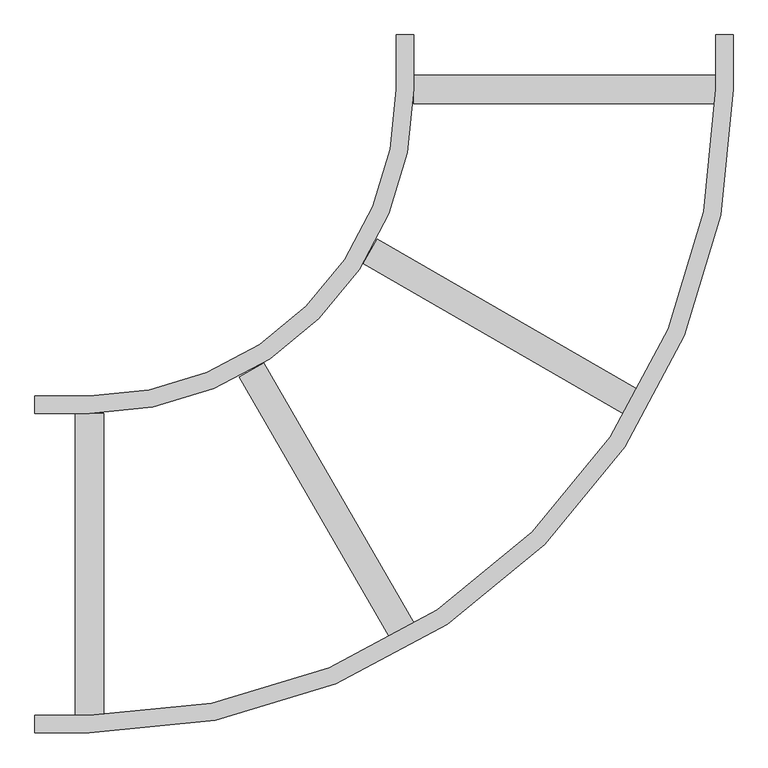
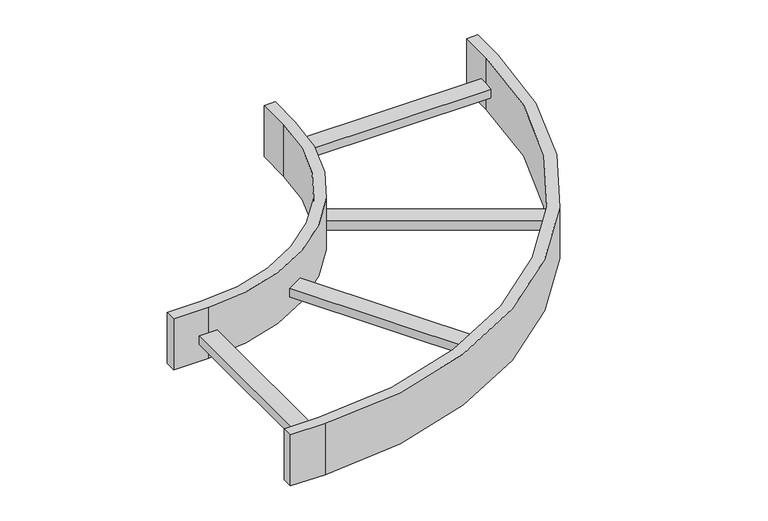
"""IFC4 building model written with IfcOpenShell, lengths in millimetres: cable carrier fitting geometry, Legrand_CableLadder_Swifts_Sapphire_FlatBend-13 : Hot Dip Galvanised (after manufacture)."""

import ifcopenshell
import ifcopenshell.guid

model = None  # the IFC model being written
_history = None  # IfcOwnerHistory: only IFC2X3 demands one
_inside = {}  # id of a spatial element -> (the spatial element, [elements in it])
_under = {}  # id of a project, library or spatial element -> (it, [spatial elements below it])
_declared = {}  # id of a project -> (the project, [libraries it declares])
_typed = {}  # id of a type object -> (the type object, [elements of that type])
_made_of = {}  # id of a material, layer set ... -> (it, [elements and type objects made of it])


def new_model(schema):
    """Start an empty IFC model of exactly this schema.

    Asked for "IFC4X3", IfcOpenShell would pick the latest addendum, in which some entities
    have other attributes; the version numbers below select the first issue.
    IFC2X3 requires an IfcOwnerHistory on every rooted entity: one is made here for all.
    """
    global model, _history
    if schema == "IFC4X3":
        model = ifcopenshell.file(schema_version=(4, 3, 0, 0))
    else:
        model = ifcopenshell.file(schema=schema)
    _inside.clear()
    _under.clear()
    _declared.clear()
    _typed.clear()
    _made_of.clear()
    _history = None
    if model.schema == "IFC2X3":
        org = make("IfcOrganization", Name="unknown")
        user = make(
            "IfcPersonAndOrganization",
            ThePerson=make("IfcPerson", FamilyName="unknown"),
            TheOrganization=org,
        )
        app = make(
            "IfcApplication",
            ApplicationDeveloper=org,
            Version="unknown",
            ApplicationFullName="unknown",
            ApplicationIdentifier="unknown",
        )
        _history = make(
            "IfcOwnerHistory",
            OwningUser=user,
            OwningApplication=app,
            ChangeAction="ADDED",
            CreationDate=0,
        )
    return model


def make(cls, **values):
    """One entity of the class cls with the attributes given. An attribute that is None is left unset."""
    return model.create_entity(
        cls, **{name: value for name, value in values.items() if value is not None}
    )


def rooted(cls, **values):
    """An entity with a GlobalId (a new one), such as an element, a storey or a relation."""
    return make(cls, GlobalId=ifcopenshell.guid.new(), OwnerHistory=_history, **values)


def si_unit(unit_type, name, prefix=None):
    """IfcSIUnit, for example si_unit("LENGTHUNIT", "METRE", prefix="MILLI")."""
    return make("IfcSIUnit", UnitType=unit_type, Prefix=prefix, Name=name)


def assignment(units):
    """IfcUnitAssignment: the units of a project."""
    return None if units is None else make("IfcUnitAssignment", Units=units)


def point(xyz):
    """IfcCartesianPoint."""
    return None if xyz is None else make("IfcCartesianPoint", Coordinates=xyz)


def direction(xyz):
    """IfcDirection."""
    return None if xyz is None else make("IfcDirection", DirectionRatios=xyz)


def frame(location, z_axis=None, x_axis=None):
    """IfcAxis2Placement3D, a coordinate frame: its origin and axes. An axis left out is left unset."""
    return make(
        "IfcAxis2Placement3D",
        Location=point(location),
        Axis=direction(z_axis),
        RefDirection=direction(x_axis),
    )


def frame_2d(location, x_axis=None):
    """IfcAxis2Placement2D, a coordinate frame in the plane: its origin and x axis."""
    return make(
        "IfcAxis2Placement2D", Location=point(location), RefDirection=direction(x_axis)
    )


def origin():
    """The frame at (0, 0, 0) with its axes left unset."""
    return frame((0.0, 0.0, 0.0))


def place(relative_to, where):
    """IfcLocalPlacement: puts the frame where relative to a parent placement (None: the world)."""
    return make(
        "IfcLocalPlacement", PlacementRelTo=relative_to, RelativePlacement=where
    )


def context(
    kind, dimensions, precision=None, world=None, true_north=None, identifier=None
):
    """IfcGeometricRepresentationContext, for example the 3D "Model" context."""
    return make(
        "IfcGeometricRepresentationContext",
        ContextIdentifier=identifier,
        ContextType=kind,
        CoordinateSpaceDimension=dimensions,
        Precision=precision,
        WorldCoordinateSystem=world,
        TrueNorth=true_north,
    )


def project(units=None, contexts=None):
    """IfcProject with its units and contexts."""
    return rooted(
        "IfcProject",
        Name="project",
        RepresentationContexts=contexts,
        UnitsInContext=assignment(units),
    )


def spatial(cls, under=None, at=None, **own):
    """A site, building, storey or space (cls), placed at a placement, below another one or the project."""
    s = rooted(cls, ObjectPlacement=at, **own)
    if under is not None:
        _under.setdefault(under.id(), (under, []))[1].append(s)
    return s


def polyline(points):
    """IfcPolyline through the points."""
    return make("IfcPolyline", Points=[point(p) for p in points])


def circle_curve(where, radius):
    """IfcCircle in the frame where."""
    return make("IfcCircle", Position=where, Radius=radius)


def trimmed(basis, trim1, trim2, sense, master):
    """IfcTrimmedCurve: the piece of a basis curve between two trims."""
    return make(
        "IfcTrimmedCurve",
        BasisCurve=basis,
        Trim1=trim1,
        Trim2=trim2,
        SenseAgreement=sense,
        MasterRepresentation=master,
    )


def segment(curve, same_sense, transition):
    """IfcCompositeCurveSegment."""
    return make(
        "IfcCompositeCurveSegment",
        Transition=transition,
        SameSense=same_sense,
        ParentCurve=curve,
    )


def composite_curve(segments, self_intersect=None):
    """IfcCompositeCurve: segments joined end to end."""
    return make("IfcCompositeCurve", Segments=segments, SelfIntersect=self_intersect)


def outline(outer, holes=None, kind="AREA"):
    """IfcArbitraryClosedProfileDef: a profile drawn as a closed curve; with holes, ...WithVoids."""
    if holes is None:
        return make("IfcArbitraryClosedProfileDef", ProfileType=kind, OuterCurve=outer)
    return make(
        "IfcArbitraryProfileDefWithVoids",
        ProfileType=kind,
        OuterCurve=outer,
        InnerCurves=holes,
    )


def extrude(swept, where, along, depth):
    """IfcExtrudedAreaSolid: the profile swept, set in the frame where, extruded along a direction by depth."""
    return make(
        "IfcExtrudedAreaSolid",
        SweptArea=swept,
        Position=where,
        ExtrudedDirection=direction(along),
        Depth=depth,
    )


def shape(context_of_items, identifier, shape_type, items):
    """IfcShapeRepresentation: the items that make up one representation, for example the "Body"."""
    return make(
        "IfcShapeRepresentation",
        ContextOfItems=context_of_items,
        RepresentationIdentifier=identifier,
        RepresentationType=shape_type,
        Items=items,
    )


def source(mapping_origin, context_of_items, identifier, shape_type, items):
    """IfcRepresentationMap: a shape defined once, which mapped items show again and again."""
    return make(
        "IfcRepresentationMap",
        MappingOrigin=mapping_origin,
        MappedRepresentation=shape(context_of_items, identifier, shape_type, items),
    )


def transform(
    local_origin,
    x_axis=None,
    y_axis=None,
    z_axis=None,
    scale=None,
    scale2=None,
    scale3=None,
    uniform=True,
):
    """IfcCartesianTransformationOperator3D, or its non-uniform kind. x_axis, y_axis, z_axis: its Axis1, 2, 3."""
    if uniform:
        return make(
            "IfcCartesianTransformationOperator3D",
            Axis1=direction(x_axis),
            Axis2=direction(y_axis),
            LocalOrigin=point(local_origin),
            Scale=scale,
            Axis3=direction(z_axis),
        )
    return make(
        "IfcCartesianTransformationOperator3DnonUniform",
        Axis1=direction(x_axis),
        Axis2=direction(y_axis),
        LocalOrigin=point(local_origin),
        Scale=scale,
        Axis3=direction(z_axis),
        Scale2=scale2,
        Scale3=scale3,
    )


def mapped(mapping_source, mapping_target):
    """IfcMappedItem: shows the shape of a source again, moved by a transform."""
    return make(
        "IfcMappedItem", MappingSource=mapping_source, MappingTarget=mapping_target
    )


def made_of(thing, what):
    """Note that an element or type object is made of a material, layer set ...; save() writes the relation."""
    if what is not None:
        _made_of.setdefault(what.id(), (what, []))[1].append(thing)
    return thing


def element(
    cls,
    number,
    at=None,
    inside=None,
    cuts=None,
    type_object=None,
    material=None,
    context=None,
    identifier="Body",
    shape_type=None,
    held_by="IfcProductDefinitionShape",
    body=None,
    shapes=None,
    **own,
):
    """One element of the class cls, such as IfcWall. Its Tag is "e" and its number.

    at: its placement. inside: the storey or other place that contains it. cuts: it is an
    opening in that element (IfcRelVoidsElement). A single representation is given by context,
    identifier, shape_type and body (its items); several are given by shapes. held_by: the class
    of the entity that holds the representations. save() writes the other relations.
    """
    e = rooted(cls, Tag="e%d" % number, ObjectPlacement=at, **own)
    if body is not None:
        shapes = [shape(context, identifier, shape_type, body)]
    if shapes is not None:
        e.Representation = make(held_by, Representations=shapes)
    if inside is not None:
        _inside.setdefault(inside.id(), (inside, []))[1].append(e)
    if cuts is not None:
        rooted(
            "IfcRelVoidsElement", RelatingBuildingElement=cuts, RelatedOpeningElement=e
        )
    if type_object is not None:
        _typed.setdefault(type_object.id(), (type_object, []))[1].append(e)
    return made_of(e, material)


def aggregate(whole, parts):
    """IfcRelAggregates: a whole, such as a stair, and the parts it consists of."""
    return rooted("IfcRelAggregates", RelatingObject=whole, RelatedObjects=parts)


def save(model, path):
    """Write the relations noted so far, then the file.

    IfcRelAggregates (storeys below a building ...), IfcRelContainedInSpatialStructure (elements
    in a storey), IfcRelDefinesByType, IfcRelAssociatesMaterial and IfcRelDeclares: one each for
    every whole, place, type object, material and project.
    """
    for whole, parts in _under.values():
        aggregate(whole, parts)
    for where, things in _inside.values():
        rooted(
            "IfcRelContainedInSpatialStructure",
            RelatedElements=things,
            RelatingStructure=where,
        )
    for kind, things in _typed.values():
        rooted("IfcRelDefinesByType", RelatedObjects=things, RelatingType=kind)
    for what, things in _made_of.values():
        rooted("IfcRelAssociatesMaterial", RelatedObjects=things, RelatingMaterial=what)
    for by, libraries in _declared.values():
        rooted("IfcRelDeclares", RelatingContext=by, RelatedDefinitions=libraries)
    model.write(path)


def cable_carrier_fitting_333dc7c5(model_context):
    return source(origin(), model_context, "Body", "SweptSolid", [
        extrude(outline(polyline([(-255.9365335, -108.9443334), (-477.4365335, 274.7049205), (-441.0634665, 295.7049205), (-219.5634665, -87.9443334), (-255.9365335, -108.9443334)])), frame((0.0, 0.0, -21.0), z_axis=(0.0, 0.0, 1.0), x_axis=(1.0, 0.0, 0.0)), (0.0, 0.0, 1.0), 21.0),
        extrude(outline(polyline([(87.9443334, 219.5634665), (-295.7049205, 441.0634665), (-274.7049205, 477.4365335), (108.9443334, 255.9365335), (87.9443334, 219.5634665)])), frame((0.0, 0.0, -21.0), z_axis=(0.0, 0.0, 1.0), x_axis=(1.0, 0.0, 0.0)), (0.0, 0.0, 1.0), 21.0),
        extrude(outline(polyline([(-718.0, -221.5), (-718.0, 221.5), (-676.0, 221.5), (-676.0, -221.5), (-718.0, -221.5)])), frame((0.0, 0.0, -21.0), z_axis=(0.0, 0.0, 1.0), x_axis=(1.0, 0.0, 0.0)), (0.0, 0.0, 1.0), 21.0),
        extrude(outline(polyline([(221.5, 676.0), (-221.5, 676.0), (-221.5, 718.0), (221.5, 718.0), (221.5, 676.0)])), frame((0.0, 0.0, -21.0), z_axis=(0.0, 0.0, 1.0), x_axis=(1.0, 0.0, 0.0)), (0.0, 0.0, 1.0), 21.0),
        extrude(outline(composite_curve([segment(polyline([(-777.0, -247.0), (-777.0, -221.5), (-697.0, -221.5)]), True, "CONTINUOUS"), segment(trimmed(circle_curve(frame_2d((-697.0, 697.0)), 918.5), [point((-697.0, -221.5))], [point((221.5, 697.0))], True, "CARTESIAN"), True, "CONTINUOUS"), segment(polyline([(221.5, 697.0), (221.5, 777.0), (247.0, 777.0), (247.0, 697.0)]), True, "CONTINUOUS"), segment(trimmed(circle_curve(frame_2d((-697.0, 697.0)), 944.0), [point((247.0, 697.0))], [point((-697.0, -247.0))], False, "CARTESIAN"), True, "CONTINUOUS"), segment(polyline([(-697.0, -247.0), (-777.0, -247.0)]), True, "CONTINUOUS")], self_intersect=False)), frame((0.0, 0.0, -62.5), z_axis=(0.0, 0.0, 1.0), x_axis=(1.0, 0.0, 0.0)), (0.0, 0.0, 1.0), 125.0),
        extrude(outline(composite_curve([segment(polyline([(-777.0, 221.5), (-777.0, 247.0), (-697.0, 247.0)]), True, "CONTINUOUS"), segment(trimmed(circle_curve(frame_2d((-697.0, 697.0)), 450.0), [point((-697.0, 247.0))], [point((-247.0, 697.0))], True, "CARTESIAN"), True, "CONTINUOUS"), segment(polyline([(-247.0, 697.0), (-247.0, 777.0), (-221.5, 777.0), (-221.5, 697.0)]), True, "CONTINUOUS"), segment(trimmed(circle_curve(frame_2d((-697.0, 697.0)), 475.5), [point((-221.5, 697.0))], [point((-697.0, 221.5))], False, "CARTESIAN"), True, "CONTINUOUS"), segment(polyline([(-697.0, 221.5), (-777.0, 221.5)]), True, "CONTINUOUS")], self_intersect=False)), frame((0.0, 0.0, -62.5), z_axis=(0.0, 0.0, 1.0), x_axis=(1.0, 0.0, 0.0)), (0.0, 0.0, 1.0), 125.0),
    ])


if __name__ == "__main__":
    model = new_model("IFC4")
    model_context = context("Model", 3, world=origin())
    ifc_project = project(units=[si_unit("LENGTHUNIT", "METRE", prefix="MILLI")], contexts=[model_context])
    site = spatial("IfcSite", under=ifc_project)
    building = spatial("IfcBuilding", under=site)
    placement = place(None, origin())
    cable_carrier_fitting_shape = cable_carrier_fitting_333dc7c5(model_context)
    element("IfcCableCarrierFitting", 1, ObjectType="Legrand_CableLadder_Swifts_Sapphire_FlatBend-13 : Hot Dip Galvanised (after manufacture)", at=placement, inside=building, context=model_context, shape_type="MappedRepresentation", body=[
        mapped(cable_carrier_fitting_shape, transform((0.0, 0.0, 0.0), x_axis=(1.0, 0.0, 0.0), y_axis=(0.0, 1.0, 0.0), z_axis=(0.0, 0.0, 1.0))),
    ])
    save(model, "model.ifc")
